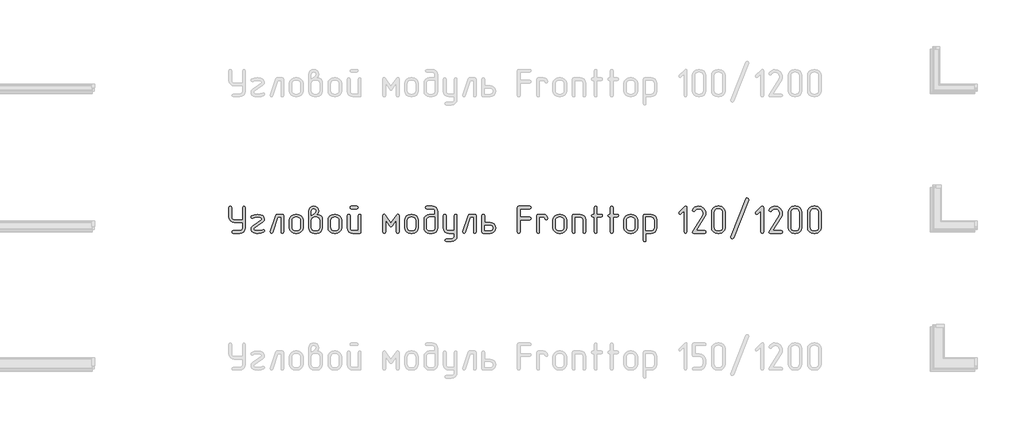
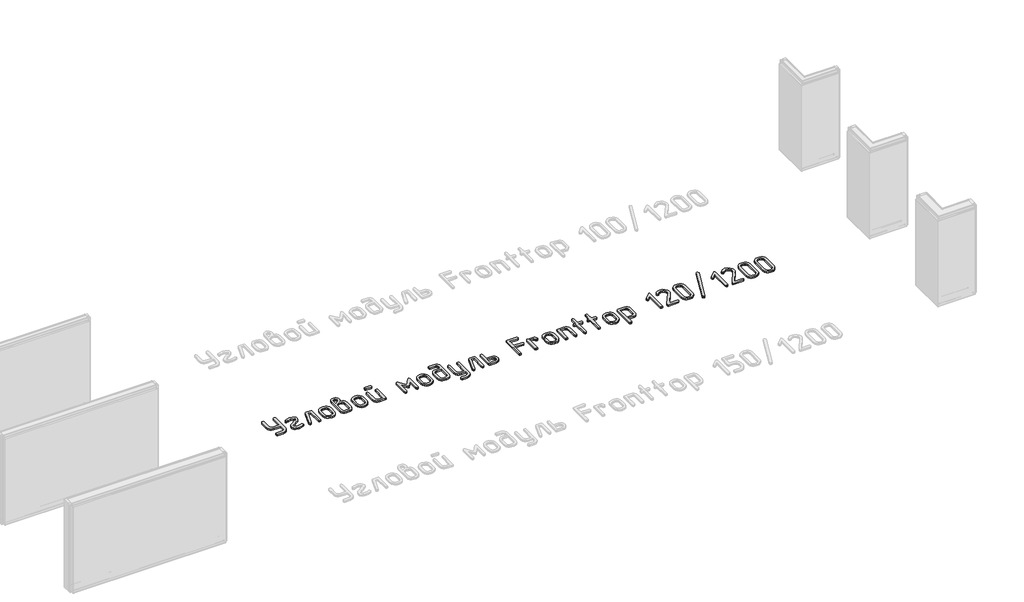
# One storey, part 25 of 37: 1 proxy.
"""IFC4 building model written with IfcOpenShell, lengths in millimetres."""

from ifc_helpers import new_model, si_unit, origin, origin_with_axes, place, context, project, spatial, polyline, outline, extrude, element, save

model = new_model("IFC4")

# Units and contexts
model_context = context("Model", 3, world=origin())
ifc_project = project(units=[si_unit("LENGTHUNIT", "METRE", prefix="MILLI")], contexts=[model_context])

# Site, building, storey
site = spatial("IfcSite", under=ifc_project)
building = spatial("IfcBuilding", under=site)
storey = spatial("IfcBuildingStorey", under=building, Name="Этаж 01", Elevation=0.0)

# Proxy
placement = place(None, origin())
element("IfcBuildingElementProxy", 1, Name="300 мм ГОСТ 2.304", ObjectType="300 мм ГОСТ 2.304", at=placement, inside=storey, context=model_context, shape_type="SweptSolid", body=[
    extrude(outline(polyline([(64282.5947081, -32608.7261154), (64192.9398643, -32608.7261154), (64169.869135, -32604.3522505), (64150.5152523, -32591.2306559), (64137.3936577, -32571.8767732), (64133.0197928, -32548.8060439), (64133.0197928, -32444.2838139), (64137.4124296, -32433.1332743), (64148.3377058, -32428.9659009), (64158.6247356, -32432.9080109), (64163.205092, -32444.2838139), (64163.205092, -32548.8060439), (64165.3357086, -32560.4540402), (64171.7275583, -32570.0183499), (64181.2918679, -32576.4101996), (64192.9398643, -32578.5408162), (64282.5947081, -32578.5408162), (64282.5947081, -32444.2838139), (64286.949801, -32433.1332743), (64297.4620942, -32428.9659009), (64307.9368436, -32432.9080109), (64312.3294804, -32444.2838139), (64312.3294804, -32668.19566), (64307.9556155, -32691.6042844), (64294.8340209, -32711.0707988), (64275.8180333, -32723.8544983), (64252.8599358, -32728.1157314), (64178.0724781, -32728.1157314), (64167.147202, -32723.7606385), (64163.205092, -32713.2483453), (64166.9219385, -32702.736052), (64178.0724781, -32698.3809591), (64252.8599358, -32698.3809591), (64264.2263528, -32696.1940267), (64273.8469783, -32689.6332294), (64280.4077756, -32679.8999722), (64282.5947081, -32668.19566), (64282.5947081, -32608.7261154)])), origin_with_axes(), (0.0, 0.0, 1.0), 20.0),
    extrude(outline(polyline([(64514.9914765, -32714.524838), (64485.4444237, -32725.0746752), (64451.6173658, -32728.5662583), (64430.8180428, -32727.4774851), (64413.0973199, -32724.5866044), (64396.8408093, -32719.4524755), (64384.8643037, -32709.3062353), (64377.4869265, -32695.6496401), (64375.0278008, -32679.984446), (64378.9699108, -32660.7619669), (64391.2467675, -32644.618088), (64486.5331969, -32578.991343), (64491.4139045, -32569.8306304), (64487.5844263, -32560.4071103), (64476.0959915, -32554.0621905), (64442.3815653, -32549.7070976), (64416.2510079, -32552.4290307), (64397.32888, -32560.5948299), (64388.1681673, -32564.1239569), (64377.693418, -32559.5436005), (64373.3007812, -32548.355517), (64379.4579815, -32537.0172579), (64408.0664367, -32524.777945), (64445.0096386, -32520.4228521), (64450.2657853, -32520.4228521), (64479.1370478, -32523.9144352), (64501.85111, -32533.7509382), (64516.7184961, -32549.0313073), (64521.9746427, -32568.9295767), (64517.7134096, -32586.6315276), (64504.9297101, -32602.193476), (64409.5681929, -32668.19566), (64404.3871341, -32679.6090069), (64408.1039806, -32689.8584928), (64417.9029396, -32695.7528858), (64434.3096259, -32697.5174493), (64451.9928049, -32698.3809591), (64478.4612575, -32696.2034127), (64501.0251441, -32687.8686659), (64508.4588371, -32686.1416463), (64519.1588499, -32690.7220026), (64523.3262233, -32701.9100861), (64521.2425366, -32709.1936036), (64514.9914765, -32714.524838)])), origin_with_axes(), (0.0, 0.0, 1.0), 20.0),
    extrude(outline(polyline([(64734.3229662, -32713.2483453), (64730.1555928, -32724.3988849), (64719.45558, -32728.1157314), (64708.9432868, -32724.1736215), (64704.5881939, -32713.2483453), (64704.5881939, -32548.8060439), (64670.0478018, -32548.8060439), (64614.0322964, -32718.0539651), (64608.5884303, -32725.4876581), (64600.5164908, -32728.1157314), (64589.7789341, -32724.1736215), (64585.1985778, -32713.6988721), (64586.0996315, -32708.4427255), (64645.1186493, -32529.133038), (64650.4498837, -32521.5867132), (64659.5355086, -32519.0712716), (64719.45558, -32519.0712716), (64730.6061197, -32522.7881181), (64734.3229662, -32533.9386577), (64734.3229662, -32713.2483453)])), origin_with_axes(), (0.0, 0.0, 1.0), 20.0),
    extrude(outline(polyline([(64945.7702359, -32662.4889865), (64940.9646162, -32687.9812976), (64926.5477569, -32709.3437792), (64905.5231704, -32723.4227434), (64880.143491, -32728.1157314), (64862.1975047, -32728.1157314), (64836.7615094, -32723.4227434), (64815.4177998, -32709.3437792), (64801.0009405, -32687.9812976), (64796.1953207, -32662.4889865), (64796.1953207, -32584.6980165), (64801.0009405, -32559.5436005), (64815.4177998, -32538.2937506), (64837.1744924, -32523.8768913), (64862.1975047, -32519.0712716), (64880.143491, -32519.0712716), (64905.288521, -32523.8862773), (64926.510213, -32538.3312945), (64940.9552302, -32559.5529865), (64945.7702359, -32584.6980165), (64945.7702359, -32662.4889865)]), holes=[polyline([(64916.0354636, -32662.4889865), (64916.0354636, -32584.6980165), (64913.4073903, -32570.9194036), (64905.5231704, -32559.3183371), (64893.9221039, -32551.4341172), (64880.143491, -32548.8060439), (64862.1975047, -32548.8060439), (64848.4282777, -32551.4341172), (64836.8553692, -32559.3183371), (64828.9993072, -32570.9194036), (64826.3806199, -32584.6980165), (64826.3806199, -32662.4889865), (64828.9993072, -32676.2675994), (64836.8553692, -32687.8686659), (64848.4282777, -32695.7528858), (64862.1975047, -32698.3809591), (64880.143491, -32698.3809591), (64893.9221039, -32695.7528858), (64905.5231704, -32687.8686659), (64913.4073903, -32676.2675994), (64916.0354636, -32662.4889865)])]), origin_with_axes(), (0.0, 0.0, 1.0), 20.0),
    extrude(outline(polyline([(65097.2974342, -32519.9723253), (65122.7897453, -32524.2335584), (65142.3501195, -32537.0172579), (65153.5006592, -32555.057104), (65157.2175057, -32578.5408162), (65157.2175057, -32668.19566), (65152.8436408, -32691.6042844), (65139.7220462, -32711.0707988), (65120.5934269, -32723.8544983), (65097.2974342, -32728.1157314), (65067.5626619, -32728.1157314), (65044.4919326, -32723.8544983), (65025.1380499, -32711.0707988), (65012.0164553, -32691.6042844), (65007.6425905, -32668.19566), (65007.6425905, -32483.2543867), (65011.9038236, -32460.3901489), (65024.6875231, -32442.5567943), (65041.4133325, -32432.3636243), (65061.8559884, -32428.9659009), (65081.9607493, -32432.3636243), (65098.573927, -32442.5567943), (65111.0760472, -32460.2775172), (65115.2434206, -32482.8038599), (65111.0760472, -32504.8421318), (65097.2974342, -32519.9723253)]), holes=[polyline([(65127.4827334, -32668.19566), (65127.4827334, -32578.5408162), (65125.295801, -32567.1743991), (65118.7350037, -32557.5537736), (65109.0017464, -32550.9929763), (65097.2974342, -32548.8060439), (65067.5626619, -32548.8060439), (65055.9146656, -32550.9929763), (65046.3503559, -32557.5537736), (65039.9585062, -32567.1743991), (65037.8278896, -32578.5408162), (65037.8278896, -32668.19566), (65039.9585062, -32679.8999722), (65046.3503559, -32689.6332294), (65055.9146656, -32696.1940267), (65067.5626619, -32698.3809591), (65097.2974342, -32698.3809591), (65109.0017464, -32696.1940267), (65118.7350037, -32689.6332294), (65125.295801, -32679.8999722), (65127.4827334, -32668.19566)]), polyline([(65037.8278896, -32529.133038), (65044.8110558, -32525.0032085), (65050.0672025, -32521.248818), (65060.1289688, -32514.0403884), (65067.5626619, -32508.5589783), (65079.8019748, -32497.671246), (65085.5086482, -32483.2543867), (65083.7065408, -32473.1644624), (65078.3002186, -32465.7213834), (65070.4723145, -32461.1316411), (65061.4054616, -32459.601727), (65052.4512404, -32461.1316411), (65044.8110558, -32465.7213834), (65039.5736812, -32473.1644624), (65037.8278896, -32483.2543867), (65037.8278896, -32529.133038)])]), origin_with_axes(), (0.0, 0.0, 1.0), 20.0),
    extrude(outline(polyline([(65368.6647755, -32662.4889865), (65363.8591557, -32687.9812976), (65349.4422964, -32709.3437792), (65328.4177099, -32723.4227434), (65303.0380305, -32728.1157314), (65285.0920442, -32728.1157314), (65259.6560489, -32723.4227434), (65238.3123393, -32709.3437792), (65223.89548, -32687.9812976), (65219.0898602, -32662.4889865), (65219.0898602, -32584.6980165), (65223.89548, -32559.5436005), (65238.3123393, -32538.2937506), (65260.0690319, -32523.8768913), (65285.0920442, -32519.0712716), (65303.0380305, -32519.0712716), (65328.1830605, -32523.8862773), (65349.4047525, -32538.3312945), (65363.8497697, -32559.5529865), (65368.6647755, -32584.6980165), (65368.6647755, -32662.4889865)]), holes=[polyline([(65338.9300032, -32662.4889865), (65338.9300032, -32584.6980165), (65336.3019298, -32570.9194036), (65328.4177099, -32559.3183371), (65316.8166434, -32551.4341172), (65303.0380305, -32548.8060439), (65285.0920442, -32548.8060439), (65271.3228172, -32551.4341172), (65259.7499087, -32559.3183371), (65251.8938467, -32570.9194036), (65249.2751594, -32584.6980165), (65249.2751594, -32662.4889865), (65251.8938467, -32676.2675994), (65259.7499087, -32687.8686659), (65271.3228172, -32695.7528858), (65285.0920442, -32698.3809591), (65303.0380305, -32698.3809591), (65316.8166434, -32695.7528858), (65328.4177099, -32687.8686659), (65336.3019298, -32676.2675994), (65338.9300032, -32662.4889865)])]), origin_with_axes(), (0.0, 0.0, 1.0), 20.0),
    extrude(outline(polyline([(65535.5098868, -32459.1512001), (65475.5898153, -32459.1512001), (65464.6645391, -32454.7961072), (65460.7224291, -32444.2838139), (65464.4392757, -32433.5838012), (65475.5898153, -32428.9659009), (65535.5098868, -32428.9659009), (65546.6604264, -32433.3585378), (65550.3772729, -32444.2838139), (65546.4351629, -32454.5708438), (65535.5098868, -32459.1512001)])), origin_with_axes(), (0.0, 0.0, 1.0), 20.0),
    extrude(outline(polyline([(65580.1120452, -32713.2483453), (65576.3951987, -32724.3988849), (65565.2446591, -32728.1157314), (65490.4572014, -32728.1157314), (65467.3864722, -32723.8544983), (65448.0325894, -32711.0707988), (65434.9109948, -32691.6042844), (65430.53713, -32668.19566), (65430.53713, -32533.9386577), (65434.9297668, -32523.0133815), (65445.855043, -32519.0712716), (65456.1420728, -32522.7881181), (65460.7224291, -32533.9386577), (65460.7224291, -32668.19566), (65462.8530457, -32679.8999722), (65469.2448954, -32689.6332294), (65478.8092051, -32696.1940267), (65490.4572014, -32698.3809591), (65550.3772729, -32698.3809591), (65550.3772729, -32533.9386577), (65554.7323658, -32523.0133815), (65565.2446591, -32519.0712716), (65575.7194084, -32522.7881181), (65580.1120452, -32533.9386577), (65580.1120452, -32713.2483453)])), origin_with_axes(), (0.0, 0.0, 1.0), 20.0),
    extrude(outline(polyline([(65999.1020187, -32713.2483453), (65994.7093818, -32724.1736215), (65984.2346325, -32728.1157314), (65973.4970758, -32724.3988849), (65969.3672464, -32713.2483453), (65969.3672464, -32580.2678358), (65921.6864877, -32647.2461613), (65915.5480594, -32653.1030104), (65909.4471749, -32655.0552934), (65903.121027, -32653.1030104), (65897.207862, -32647.2461613), (65849.9776303, -32580.2678358), (65849.9776303, -32713.2483453), (65845.3972739, -32724.1736215), (65835.1102441, -32728.1157314), (65823.9597045, -32724.3988849), (65819.7923311, -32713.2483453), (65819.7923311, -32533.9386577), (65823.5091776, -32521.0235546), (65832.9326977, -32516.4431983), (65840.666742, -32518.6395167), (65847.349557, -32525.2284719), (65909.4471749, -32612.6306814), (65971.9953197, -32525.2284719), (65978.7532225, -32518.6395167), (65985.9616521, -32516.4431983), (65995.3851721, -32521.0235546), (65999.1020187, -32533.9386577), (65999.1020187, -32713.2483453)])), origin_with_axes(), (0.0, 0.0, 1.0), 20.0),
    extrude(outline(polyline([(66209.6482347, -32662.4889865), (66204.8426149, -32687.9812976), (66190.4257556, -32709.3437792), (66169.4011692, -32723.4227434), (66144.0214898, -32728.1157314), (66126.0755035, -32728.1157314), (66100.6395082, -32723.4227434), (66079.2957985, -32709.3437792), (66064.8789392, -32687.9812976), (66060.0733195, -32662.4889865), (66060.0733195, -32584.6980165), (66064.8789392, -32559.5436005), (66079.2957985, -32538.2937506), (66101.0524911, -32523.8768913), (66126.0755035, -32519.0712716), (66144.0214898, -32519.0712716), (66169.1665198, -32523.8862773), (66190.3882117, -32538.3312945), (66204.833229, -32559.5529865), (66209.6482347, -32584.6980165), (66209.6482347, -32662.4889865)]), holes=[polyline([(66179.9134624, -32662.4889865), (66179.9134624, -32584.6980165), (66177.2853891, -32570.9194036), (66169.4011692, -32559.3183371), (66157.8001027, -32551.4341172), (66144.0214898, -32548.8060439), (66126.0755035, -32548.8060439), (66112.3062765, -32551.4341172), (66100.733368, -32559.3183371), (66092.877306, -32570.9194036), (66090.2586186, -32584.6980165), (66090.2586186, -32662.4889865), (66092.877306, -32676.2675994), (66100.733368, -32687.8686659), (66112.3062765, -32695.7528858), (66126.0755035, -32698.3809591), (66144.0214898, -32698.3809591), (66157.8001027, -32695.7528858), (66169.4011692, -32687.8686659), (66177.2853891, -32676.2675994), (66179.9134624, -32662.4889865)])]), origin_with_axes(), (0.0, 0.0, 1.0), 20.0),
    extrude(outline(polyline([(66391.3607322, -32519.0712716), (66391.3607322, -32488.8859724), (66389.1737997, -32477.2379761), (66382.6130024, -32467.6736664), (66372.8797452, -32461.2818167), (66361.175433, -32459.1512001), (66301.7058884, -32459.1512001), (66290.7806122, -32454.7961072), (66286.8385022, -32444.2838139), (66290.5553488, -32433.5838012), (66301.7058884, -32428.9659009), (66361.175433, -32428.9659009), (66384.4714257, -32433.3397658), (66403.600045, -32446.4613604), (66416.7216396, -32465.8152431), (66421.0955045, -32488.8859724), (66421.0955045, -32668.19566), (66416.7216396, -32691.6042844), (66403.600045, -32711.0707988), (66384.4714257, -32723.8544983), (66361.175433, -32728.1157314), (66331.4406607, -32728.1157314), (66308.3699314, -32723.8544983), (66289.0160487, -32711.0707988), (66275.8944541, -32691.6042844), (66271.5205892, -32668.19566), (66271.5205892, -32578.5408162), (66275.8944541, -32555.8079821), (66289.0160487, -32536.566731), (66308.3699314, -32523.4451364), (66331.4406607, -32519.0712716), (66391.3607322, -32519.0712716)]), holes=[polyline([(66391.3607322, -32548.8060439), (66331.4406607, -32548.8060439), (66319.7926643, -32550.9929763), (66310.2283547, -32557.5537736), (66303.836505, -32567.1743991), (66301.7058884, -32578.5408162), (66301.7058884, -32668.19566), (66303.836505, -32679.8999722), (66310.2283547, -32689.6332294), (66319.7926643, -32696.1940267), (66331.4406607, -32698.3809591), (66361.175433, -32698.3809591), (66372.8797452, -32696.1940267), (66382.6130024, -32689.6332294), (66389.1737997, -32679.8999722), (66391.3607322, -32668.19566), (66391.3607322, -32548.8060439)])]), origin_with_axes(), (0.0, 0.0, 1.0), 20.0),
    extrude(outline(polyline([(66602.8080019, -32728.1157314), (66542.8879304, -32728.1157314), (66519.8172012, -32723.8544983), (66500.4633184, -32711.0707988), (66487.3417238, -32691.6042844), (66482.967859, -32668.19566), (66482.967859, -32533.9386577), (66487.3604958, -32523.0133815), (66498.285772, -32519.0712716), (66508.5728018, -32522.7881181), (66513.1531581, -32533.9386577), (66513.1531581, -32668.19566), (66515.2837747, -32679.8999722), (66521.6756244, -32689.6332294), (66531.2399341, -32696.1940267), (66542.8879304, -32698.3809591), (66602.8080019, -32698.3809591), (66602.8080019, -32533.9386577), (66607.1630948, -32523.0133815), (66617.6753881, -32519.0712716), (66628.1501374, -32522.7881181), (66632.5427742, -32533.9386577), (66632.5427742, -32757.8505038), (66628.2815411, -32781.1464965), (66615.4978416, -32800.2751158), (66596.0313272, -32813.3967104), (66572.6227028, -32817.7705752), (66513.1531581, -32817.7705752), (66502.2278819, -32813.3779384), (66498.285772, -32802.9031891), (66502.0026185, -32792.3908958), (66513.1531581, -32788.0358029), (66572.6227028, -32788.0358029), (66584.327015, -32785.8488705), (66594.0602722, -32779.2880732), (66600.6210695, -32769.554816), (66602.8080019, -32757.8505038), (66602.8080019, -32728.1157314)])), origin_with_axes(), (0.0, 0.0, 1.0), 20.0),
    extrude(outline(polyline([(66843.990044, -32713.2483453), (66839.8226706, -32724.3988849), (66829.1226578, -32728.1157314), (66818.6103646, -32724.1736215), (66814.2552717, -32713.2483453), (66814.2552717, -32548.8060439), (66779.7148796, -32548.8060439), (66723.6993742, -32718.0539651), (66718.255508, -32725.4876581), (66710.1835686, -32728.1157314), (66699.4460119, -32724.1736215), (66694.8656556, -32713.6988721), (66695.7667093, -32708.4427255), (66754.7857271, -32529.133038), (66760.1169615, -32521.5867132), (66769.2025864, -32519.0712716), (66829.1226578, -32519.0712716), (66840.2731974, -32522.7881181), (66843.990044, -32533.9386577), (66843.990044, -32713.2483453)])), origin_with_axes(), (0.0, 0.0, 1.0), 20.0),
    extrude(outline(polyline([(66936.0476976, -32608.7261154), (66995.5172423, -32608.7261154), (67021.0095534, -32613.3252436), (67040.5699276, -32627.1226285), (67051.7204672, -32645.4628258), (67055.4373137, -32668.19566), (67051.8330989, -32690.9472661), (67041.0204544, -32709.3437792), (67021.1221851, -32723.4227434), (66995.5172423, -32728.1157314), (66921.1803115, -32728.1157314), (66909.6918767, -32724.3988849), (66905.8623985, -32713.2483453), (66905.8623985, -32533.9386577), (66910.2550353, -32523.0133815), (66921.1803115, -32519.0712716), (66931.4673413, -32522.7881181), (66936.0476976, -32533.9386577), (66936.0476976, -32608.7261154)]), holes=[polyline([(66936.0476976, -32638.4608877), (66936.0476976, -32698.3809591), (66995.5172423, -32698.3809591), (67008.3009417, -32696.1377108), (67017.8183215, -32689.407966), (67023.7314864, -32679.6183929), (67025.7025414, -32668.19566), (67023.8441182, -32657.1577521), (67018.2688483, -32647.6216003), (67008.6388369, -32640.7510658), (66995.5172423, -32638.4608877), (66936.0476976, -32638.4608877)])]), origin_with_axes(), (0.0, 0.0, 1.0), 20.0),
    extrude(outline(polyline([(67325.3028988, -32548.355517), (67429.8251287, -32548.355517), (67440.9756683, -32552.5228904), (67444.6925149, -32563.2229032), (67440.7504049, -32573.9604598), (67429.8251287, -32578.5408162), (67325.3028988, -32578.5408162), (67325.3028988, -32713.2483453), (67321.1355254, -32724.3988849), (67310.4355126, -32728.1157314), (67299.697956, -32724.1736215), (67295.1175996, -32713.2483453), (67295.1175996, -32444.2838139), (67298.9470779, -32432.7953792), (67310.4355126, -32428.9659009), (67429.8251287, -32428.9659009), (67440.9756683, -32433.3585378), (67444.6925149, -32444.2838139), (67440.7504049, -32454.5708438), (67429.8251287, -32459.1512001), (67325.3028988, -32459.1512001), (67325.3028988, -32548.355517)])), origin_with_axes(), (0.0, 0.0, 1.0), 20.0),
    extrude(outline(polyline([(67626.4050123, -32563.67343), (67622.2376389, -32574.8239697), (67611.5376262, -32578.5408162), (67600.8000695, -32574.5987062), (67596.2197132, -32563.67343), (67592.0523398, -32553.1986807), (67581.352327, -32548.8060439), (67536.7501685, -32548.8060439), (67536.7501685, -32713.2483453), (67532.5827951, -32724.3988849), (67521.8827824, -32728.1157314), (67511.1452257, -32724.1736215), (67506.5648694, -32713.2483453), (67506.5648694, -32533.9386577), (67510.3943476, -32522.7881181), (67521.8827824, -32519.0712716), (67581.352327, -32519.0712716), (67598.8477865, -32522.5628547), (67613.3021897, -32532.1740942), (67622.9134292, -32546.403234), (67626.4050123, -32563.67343)])), origin_with_axes(), (0.0, 0.0, 1.0), 20.0),
    extrude(outline(polyline([(67833.947716, -32662.4889865), (67829.1420963, -32687.9812976), (67814.7252369, -32709.3437792), (67793.7006505, -32723.4227434), (67768.3209711, -32728.1157314), (67750.3749848, -32728.1157314), (67724.9389895, -32723.4227434), (67703.5952798, -32709.3437792), (67689.1784205, -32687.9812976), (67684.3728008, -32662.4889865), (67684.3728008, -32584.6980165), (67689.1784205, -32559.5436005), (67703.5952798, -32538.2937506), (67725.3519725, -32523.8768913), (67750.3749848, -32519.0712716), (67768.3209711, -32519.0712716), (67793.4660011, -32523.8862773), (67814.687693, -32538.3312945), (67829.1327103, -32559.5529865), (67833.947716, -32584.6980165), (67833.947716, -32662.4889865)]), holes=[polyline([(67804.2129437, -32662.4889865), (67804.2129437, -32584.6980165), (67801.5848704, -32570.9194036), (67793.7006505, -32559.3183371), (67782.099584, -32551.4341172), (67768.3209711, -32548.8060439), (67750.3749848, -32548.8060439), (67736.6057578, -32551.4341172), (67725.0328493, -32559.3183371), (67717.1767873, -32570.9194036), (67714.5580999, -32584.6980165), (67714.5580999, -32662.4889865), (67717.1767873, -32676.2675994), (67725.0328493, -32687.8686659), (67736.6057578, -32695.7528858), (67750.3749848, -32698.3809591), (67768.3209711, -32698.3809591), (67782.099584, -32695.7528858), (67793.7006505, -32687.8686659), (67801.5848704, -32676.2675994), (67804.2129437, -32662.4889865)])]), origin_with_axes(), (0.0, 0.0, 1.0), 20.0),
    extrude(outline(polyline([(68045.3949858, -32713.2483453), (68041.2276124, -32724.3988849), (68030.5275996, -32728.1157314), (68020.0153064, -32724.1736215), (68015.6602135, -32713.2483453), (68015.6602135, -32578.5408162), (68013.473281, -32567.1743991), (68006.9124837, -32557.5537736), (67997.1792265, -32550.9929763), (67985.4749143, -32548.8060439), (67926.0053697, -32548.8060439), (67926.0053697, -32713.2483453), (67921.8379963, -32724.3988849), (67911.1379835, -32728.1157314), (67900.4004269, -32724.1736215), (67895.8200705, -32713.2483453), (67895.8200705, -32533.9386577), (67899.6495488, -32522.7881181), (67911.1379835, -32519.0712716), (67985.4749143, -32519.0712716), (68008.770907, -32523.3325047), (68027.8995263, -32536.1162042), (68041.0211209, -32555.4700869), (68045.3949858, -32578.5408162), (68045.3949858, -32713.2483453)])), origin_with_axes(), (0.0, 0.0, 1.0), 20.0),
    extrude(outline(polyline([(68167.1874117, -32519.0712716), (68212.2400971, -32519.0712716), (68223.3906367, -32523.238645), (68227.1074832, -32533.9386577), (68223.1653733, -32544.2256875), (68212.2400971, -32548.8060439), (68167.1874117, -32548.8060439), (68167.1874117, -32713.2483453), (68163.0200384, -32724.3988849), (68152.3200256, -32728.1157314), (68141.8077324, -32724.1736215), (68137.4526394, -32713.2483453), (68137.4526394, -32548.8060439), (68122.5852533, -32548.8060439), (68111.4347137, -32544.450951), (68107.2673403, -32533.9386577), (68111.2094502, -32523.4639084), (68122.5852533, -32519.0712716), (68137.4526394, -32519.0712716), (68137.4526394, -32444.2838139), (68141.8077324, -32433.1332743), (68152.3200256, -32428.9659009), (68162.7947749, -32432.9080109), (68167.1874117, -32444.2838139), (68167.1874117, -32519.0712716)])), origin_with_axes(), (0.0, 0.0, 1.0), 20.0),
    extrude(outline(polyline([(68344.9953431, -32519.0712716), (68390.0480284, -32519.0712716), (68401.1985681, -32523.238645), (68404.9154146, -32533.9386577), (68400.9733046, -32544.2256875), (68390.0480284, -32548.8060439), (68344.9953431, -32548.8060439), (68344.9953431, -32713.2483453), (68340.8279697, -32724.3988849), (68330.127957, -32728.1157314), (68319.6156637, -32724.1736215), (68315.2605708, -32713.2483453), (68315.2605708, -32548.8060439), (68300.3931847, -32548.8060439), (68289.2426451, -32544.450951), (68285.0752717, -32533.9386577), (68289.0173816, -32523.4639084), (68300.3931847, -32519.0712716), (68315.2605708, -32519.0712716), (68315.2605708, -32444.2838139), (68319.6156637, -32433.1332743), (68330.127957, -32428.9659009), (68340.6027063, -32432.9080109), (68344.9953431, -32444.2838139), (68344.9953431, -32519.0712716)])), origin_with_axes(), (0.0, 0.0, 1.0), 20.0),
    extrude(outline(polyline([(68612.4581183, -32662.4889865), (68607.6524985, -32687.9812976), (68593.2356392, -32709.3437792), (68572.2110527, -32723.4227434), (68546.8313734, -32728.1157314), (68528.885387, -32728.1157314), (68503.4493918, -32723.4227434), (68482.1056821, -32709.3437792), (68467.6888228, -32687.9812976), (68462.883203, -32662.4889865), (68462.883203, -32584.6980165), (68467.6888228, -32559.5436005), (68482.1056821, -32538.2937506), (68503.8623747, -32523.8768913), (68528.885387, -32519.0712716), (68546.8313734, -32519.0712716), (68571.9764033, -32523.8862773), (68593.1980953, -32538.3312945), (68607.6431126, -32559.5529865), (68612.4581183, -32584.6980165), (68612.4581183, -32662.4889865)]), holes=[polyline([(68582.723346, -32662.4889865), (68582.723346, -32584.6980165), (68580.0952727, -32570.9194036), (68572.2110527, -32559.3183371), (68560.6099863, -32551.4341172), (68546.8313734, -32548.8060439), (68528.885387, -32548.8060439), (68515.1161601, -32551.4341172), (68503.5432515, -32559.3183371), (68495.6871895, -32570.9194036), (68493.0685022, -32584.6980165), (68493.0685022, -32662.4889865), (68495.6871895, -32676.2675994), (68503.5432515, -32687.8686659), (68515.1161601, -32695.7528858), (68528.885387, -32698.3809591), (68546.8313734, -32698.3809591), (68560.6099863, -32695.7528858), (68572.2110527, -32687.8686659), (68580.0952727, -32676.2675994), (68582.723346, -32662.4889865)])]), origin_with_axes(), (0.0, 0.0, 1.0), 20.0),
    extrude(outline(polyline([(68704.515772, -32728.1157314), (68704.515772, -32802.9031891), (68700.3483986, -32814.0537287), (68689.6483858, -32817.7705752), (68678.9108291, -32813.8284653), (68674.3304728, -32802.9031891), (68674.3304728, -32533.9386577), (68678.1599511, -32522.7881181), (68689.6483858, -32519.0712716), (68763.9853166, -32519.0712716), (68787.2813093, -32523.3325047), (68806.4099286, -32536.1162042), (68819.5315232, -32555.4700869), (68823.9053881, -32578.5408162), (68823.9053881, -32668.19566), (68819.5315232, -32691.6042844), (68806.4099286, -32711.0707988), (68787.2813093, -32723.8544983), (68763.9853166, -32728.1157314), (68704.515772, -32728.1157314)]), holes=[polyline([(68704.515772, -32698.3809591), (68763.9853166, -32698.3809591), (68775.6896288, -32696.1940267), (68785.422886, -32689.6332294), (68791.9836833, -32679.8999722), (68794.1706157, -32668.19566), (68794.1706157, -32578.5408162), (68791.9836833, -32567.1743991), (68785.422886, -32557.5537736), (68775.6896288, -32550.9929763), (68763.9853166, -32548.8060439), (68704.515772, -32548.8060439), (68704.515772, -32698.3809591)])]), origin_with_axes(), (0.0, 0.0, 1.0), 20.0),
    extrude(outline(polyline([(69153.2405177, -32713.2483453), (69149.0731443, -32724.3988849), (69138.3731316, -32728.1157314), (69128.0861018, -32724.1736215), (69123.5057454, -32713.2483453), (69123.5057454, -32480.1757866), (69088.9653533, -32514.2656518), (69078.9035869, -32519.0712716), (69068.1660303, -32514.4909152), (69063.5856739, -32503.7533586), (69068.3912937, -32493.3161531), (69127.8608383, -32433.7715207), (69141.0012049, -32427.2388813), (69149.7489346, -32431.6315182), (69153.2405177, -32444.2838139), (69153.2405177, -32713.2483453)])), origin_with_axes(), (0.0, 0.0, 1.0), 20.0),
    extrude(outline(polyline([(69351.1719819, -32544.450951), (69254.5339719, -32698.3809591), (69347.2674158, -32698.3809591), (69358.4179554, -32702.5483325), (69362.134802, -32713.2483453), (69358.192692, -32723.5353751), (69347.2674158, -32728.1157314), (69227.8777997, -32728.1157314), (69215.7135747, -32725.1685349), (69211.658833, -32716.3269455), (69215.18796, -32704.9135985), (69325.4168634, -32529.133038), (69331.0484491, -32506.8319587), (69327.3316026, -32488.3603577), (69316.181063, -32473.1926204), (69299.3426218, -32462.6615552), (69279.4631244, -32459.1512001), (69267.7681982, -32460.6811142), (69257.1620452, -32465.2708565), (69240.1171126, -32481.9028062), (69235.1050013, -32487.1401809), (69227.8777997, -32488.8859724), (69217.3655065, -32484.7561429), (69212.5598867, -32474.4691131), (69215.18796, -32466.1343663), (69227.2207814, -32451.1168046), (69242.294659, -32439.2529308), (69259.3395916, -32431.5376584), (69277.285578, -32428.9659009), (69309.3105284, -32434.8790659), (69336.3045957, -32452.6185607), (69354.663565, -32477.9982401), (69359.2533073, -32492.3212397), (69360.7832214, -32507.7330124), (69358.3804115, -32526.5237366), (69351.1719819, -32544.450951)])), origin_with_axes(), (0.0, 0.0, 1.0), 20.0),
    extrude(outline(polyline([(69573.5820717, -32662.4889865), (69568.776452, -32687.9812976), (69554.3595927, -32709.3437792), (69533.3350062, -32723.4227434), (69507.9553268, -32728.1157314), (69490.0093405, -32728.1157314), (69464.5733452, -32723.4227434), (69443.2296355, -32709.3437792), (69428.8127762, -32687.9812976), (69424.0071565, -32662.4889865), (69424.0071565, -32495.0431727), (69428.8127762, -32469.8887568), (69443.2296355, -32448.6389069), (69464.7610647, -32433.8841524), (69490.0093405, -32428.9659009), (69507.9553268, -32428.9659009), (69533.1003568, -32433.7809067), (69554.3220488, -32448.2259239), (69568.767066, -32469.5602476), (69573.5820717, -32495.0431727), (69573.5820717, -32662.4889865)]), holes=[polyline([(69543.8472994, -32662.4889865), (69543.8472994, -32495.0431727), (69541.2192261, -32481.2645598), (69533.3350062, -32469.6634933), (69521.7339397, -32461.7792734), (69507.9553268, -32459.1512001), (69490.0093405, -32459.1512001), (69476.2401135, -32461.7792734), (69464.667205, -32469.6634933), (69456.811143, -32481.2645598), (69454.1924556, -32495.0431727), (69454.1924556, -32662.4889865), (69456.811143, -32676.2675994), (69464.667205, -32687.8686659), (69476.2401135, -32695.7528858), (69490.0093405, -32698.3809591), (69507.9553268, -32698.3809591), (69521.7339397, -32695.7528858), (69533.3350062, -32687.8686659), (69541.2192261, -32676.2675994), (69543.8472994, -32662.4889865)])]), origin_with_axes(), (0.0, 0.0, 1.0), 20.0),
    extrude(outline(polyline([(69829.1809731, -32359.8851168), (69664.7386717, -32778.4245634), (69659.0695421, -32785.4077296), (69651.2228661, -32788.0358029), (69640.260046, -32783.8684295), (69635.4544262, -32773.1684168), (69636.3554799, -32767.4617433), (69800.7977813, -32348.9973845), (69806.4669109, -32341.9391305), (69814.3135869, -32339.3110572), (69825.276407, -32343.703694), (69830.0820268, -32354.1784433), (69829.1809731, -32359.8851168)])), origin_with_axes(), (0.0, 0.0, 1.0), 20.0),
    extrude(outline(polyline([(69994.223977, -32713.2483453), (69990.0566036, -32724.3988849), (69979.3565908, -32728.1157314), (69969.069561, -32724.1736215), (69964.4892047, -32713.2483453), (69964.4892047, -32480.1757866), (69929.9488126, -32514.2656518), (69919.8870462, -32519.0712716), (69909.1494895, -32514.4909152), (69904.5691332, -32503.7533586), (69909.374753, -32493.3161531), (69968.8442976, -32433.7715207), (69981.9846641, -32427.2388813), (69990.7323939, -32431.6315182), (69994.223977, -32444.2838139), (69994.223977, -32713.2483453)])), origin_with_axes(), (0.0, 0.0, 1.0), 20.0),
    extrude(outline(polyline([(70192.1554411, -32544.450951), (70095.5174311, -32698.3809591), (70188.2508751, -32698.3809591), (70199.4014147, -32702.5483325), (70203.1182612, -32713.2483453), (70199.1761513, -32723.5353751), (70188.2508751, -32728.1157314), (70068.861259, -32728.1157314), (70056.697034, -32725.1685349), (70052.6422923, -32716.3269455), (70056.1714193, -32704.9135985), (70166.4003227, -32529.133038), (70172.0319084, -32506.8319587), (70168.3150618, -32488.3603577), (70157.1645222, -32473.1926204), (70140.3260811, -32462.6615552), (70120.4465837, -32459.1512001), (70108.7516574, -32460.6811142), (70098.1455044, -32465.2708565), (70081.1005718, -32481.9028062), (70076.0884606, -32487.1401809), (70068.861259, -32488.8859724), (70058.3489657, -32484.7561429), (70053.543346, -32474.4691131), (70056.1714193, -32466.1343663), (70068.2042407, -32451.1168046), (70083.2781183, -32439.2529308), (70100.3230509, -32431.5376584), (70118.2690372, -32428.9659009), (70150.2939877, -32434.8790659), (70177.288055, -32452.6185607), (70195.6470243, -32477.9982401), (70200.2367666, -32492.3212397), (70201.7666807, -32507.7330124), (70199.3638708, -32526.5237366), (70192.1554411, -32544.450951)])), origin_with_axes(), (0.0, 0.0, 1.0), 20.0),
    extrude(outline(polyline([(70414.565531, -32662.4889865), (70409.7599112, -32687.9812976), (70395.3430519, -32709.3437792), (70374.3184654, -32723.4227434), (70348.938786, -32728.1157314), (70330.9927997, -32728.1157314), (70305.5568045, -32723.4227434), (70284.2130948, -32709.3437792), (70269.7962355, -32687.9812976), (70264.9906157, -32662.4889865), (70264.9906157, -32495.0431727), (70269.7962355, -32469.8887568), (70284.2130948, -32448.6389069), (70305.744524, -32433.8841524), (70330.9927997, -32428.9659009), (70348.938786, -32428.9659009), (70374.083816, -32433.7809067), (70395.305508, -32448.2259239), (70409.7505252, -32469.5602476), (70414.565531, -32495.0431727), (70414.565531, -32662.4889865)]), holes=[polyline([(70384.8307587, -32662.4889865), (70384.8307587, -32495.0431727), (70382.2026854, -32481.2645598), (70374.3184654, -32469.6634933), (70362.717399, -32461.7792734), (70348.938786, -32459.1512001), (70330.9927997, -32459.1512001), (70317.2235728, -32461.7792734), (70305.6506642, -32469.6634933), (70297.7946022, -32481.2645598), (70295.1759149, -32495.0431727), (70295.1759149, -32662.4889865), (70297.7946022, -32676.2675994), (70305.6506642, -32687.8686659), (70317.2235728, -32695.7528858), (70330.9927997, -32698.3809591), (70348.938786, -32698.3809591), (70362.717399, -32695.7528858), (70374.3184654, -32687.8686659), (70382.2026854, -32676.2675994), (70384.8307587, -32662.4889865)])]), origin_with_axes(), (0.0, 0.0, 1.0), 20.0),
    extrude(outline(polyline([(70626.0128007, -32662.4889865), (70621.207181, -32687.9812976), (70606.7903217, -32709.3437792), (70585.7657352, -32723.4227434), (70560.3860558, -32728.1157314), (70542.4400695, -32728.1157314), (70517.0040742, -32723.4227434), (70495.6603646, -32709.3437792), (70481.2435053, -32687.9812976), (70476.4378855, -32662.4889865), (70476.4378855, -32495.0431727), (70481.2435053, -32469.8887568), (70495.6603646, -32448.6389069), (70517.1917937, -32433.8841524), (70542.4400695, -32428.9659009), (70560.3860558, -32428.9659009), (70585.5310858, -32433.7809067), (70606.7527778, -32448.2259239), (70621.197795, -32469.5602476), (70626.0128007, -32495.0431727), (70626.0128007, -32662.4889865)]), holes=[polyline([(70596.2780284, -32662.4889865), (70596.2780284, -32495.0431727), (70593.6499551, -32481.2645598), (70585.7657352, -32469.6634933), (70574.1646687, -32461.7792734), (70560.3860558, -32459.1512001), (70542.4400695, -32459.1512001), (70528.6708425, -32461.7792734), (70517.097934, -32469.6634933), (70509.241872, -32481.2645598), (70506.6231847, -32495.0431727), (70506.6231847, -32662.4889865), (70509.241872, -32676.2675994), (70517.097934, -32687.8686659), (70528.6708425, -32695.7528858), (70542.4400695, -32698.3809591), (70560.3860558, -32698.3809591), (70574.1646687, -32695.7528858), (70585.7657352, -32687.8686659), (70593.6499551, -32676.2675994), (70596.2780284, -32662.4889865)])]), origin_with_axes(), (0.0, 0.0, 1.0), 20.0),
])

save(model, "model.ifc")
